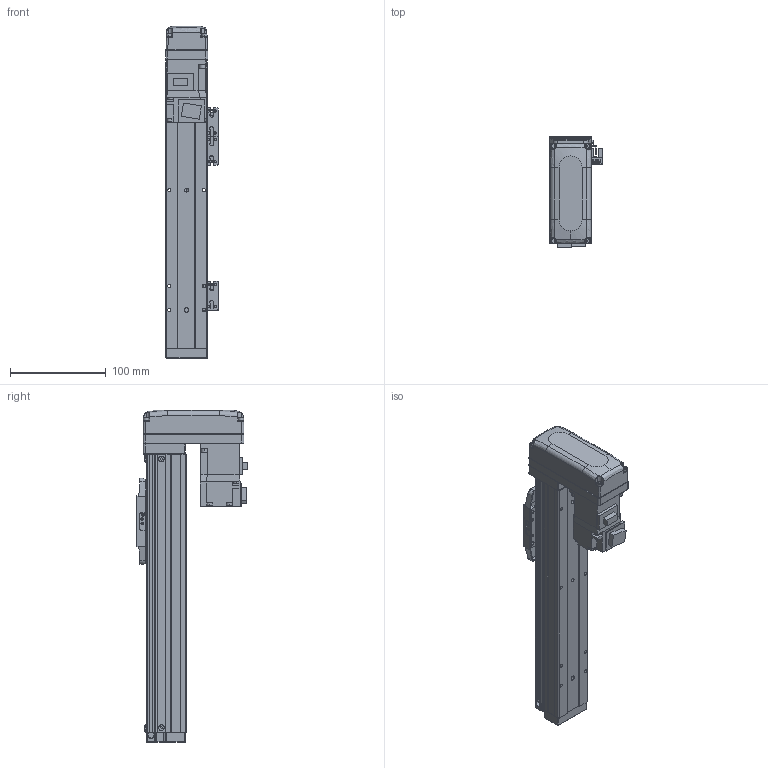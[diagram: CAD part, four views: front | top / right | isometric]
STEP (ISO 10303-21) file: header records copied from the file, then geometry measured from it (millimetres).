
FILE_DESCRIPTION (( 'STEP AP203' ), '1' );
FILE_NAME ('BTH40-150-BM-M05-C4.step', '2021-12-16T00:18:06', ( '微软用户' ), ( '微软中国' ), 'SwSTEP 2.0', 'SolidWorks 2020', '' );
FILE_SCHEMA (( 'CONFIG_CONTROL_DESIGN' ));
Length unit declared in the file: millimetre
Products named in the file (19): BTH40-001-50_BTH40-001-150; BTH50-024; HG-KR13; BTH40-003; GBT 70.1-M3℅6; GBT 70.3-M3℅6; BTH40-006; GBT96.1-2002 3×0.8; BTH40-027-1; BTH-M3X5X6; BTH40-022; BTH50-026; GBT70.1-2000 M3×16; GBT 70.1-M2.5×6; BTH40-150-BM-M05-C4; BTH50-028; BTH40-004; BTH50-023; BTH40-013
Assembly tree (47 placements, depth 2):
  BTH40-150-BM-M05-C4
    BTH40-001-50_BTH40-001-150
    BTH40-003
    BTH40-006
    BTH-M3X5X6  x8
    GBT70.1-2000 M3×16  x4
    BTH50-028  x2
    BTH50-023  x3
    BTH50-024  x3
    GBT 70.1-M3℅6  x6
    GBT96.1-2002 3×0.8  x6
    BTH40-022
    GBT 70.1-M2.5×6  x2
    BTH40-004
    BTH40-013
    HG-KR13
    GBT 70.3-M3℅6  x4
    BTH40-027-1
    BTH50-026
Bounding box: 55.2 x 115.8 x 346 mm (x, y, z)
Volume: 762103.2 mm3; surface area: 156574.9 mm2
Topology: 49 solids, 49 shells, 1971 faces, 4623 edges, 2842 vertices
Faces by surface type: plane 1052, cylinder 483, cone 270, torus 128, bspline 34, sphere 4
Entity records: 39247 total; most frequent: CARTESIAN_POINT 7522, DIRECTION 6140, ORIENTED_EDGE 5892, EDGE_CURVE 2946, AXIS2_PLACEMENT_3D 2095, LINE 1950, VECTOR 1950, VERTEX_POINT 1829
